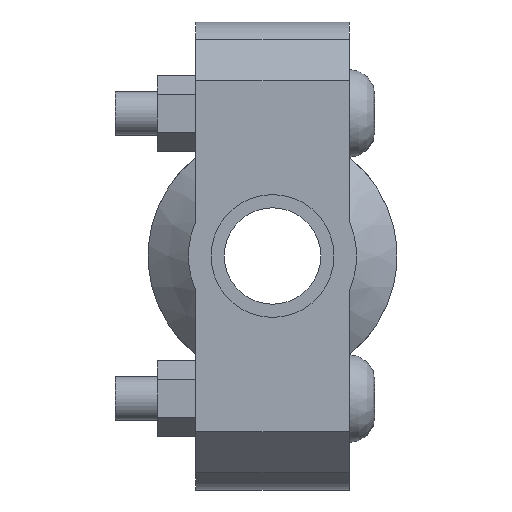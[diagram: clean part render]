
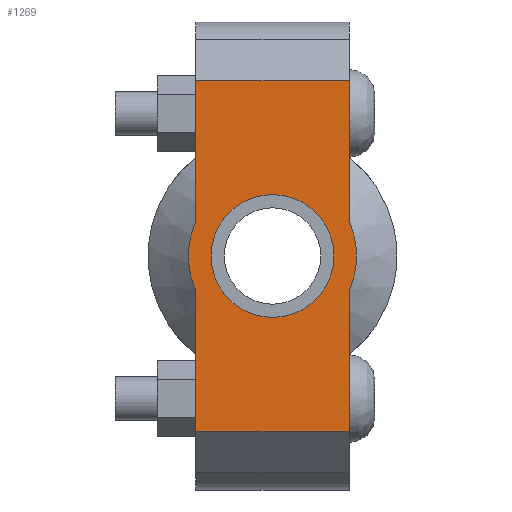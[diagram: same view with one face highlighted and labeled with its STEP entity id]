
A CAD part, left-side view. The second image highlights one B-rep face of the part: STEP entity #1269.
In plain terms, the highlighted planar face has unit normal (-1, 0, 0) as drawn and (0, 0, 1) by its records, which use the part's own axes.
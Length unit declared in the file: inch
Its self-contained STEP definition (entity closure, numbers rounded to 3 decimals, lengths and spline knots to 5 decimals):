
#97=LINE('',#2139,#186);
#112=LINE('',#2198,#201);
#120=LINE('',#2228,#209);
#122=LINE('',#2231,#211);
#123=LINE('',#2236,#212);
#124=LINE('',#2237,#213);
#186=VECTOR('',#1720,0.3937);
#201=VECTOR('',#1755,0.3937);
#209=VECTOR('',#1775,0.3937);
#211=VECTOR('',#1779,0.3937);
#212=VECTOR('',#1784,0.3937);
#213=VECTOR('',#1785,0.3937);
#261=FACE_BOUND('',#390,.T.);
#309=FACE_OUTER_BOUND('',#389,.T.);
#389=EDGE_LOOP('',(#995,#996,#997,#998,#999,#1000,#1001,#1002));
#390=EDGE_LOOP('',(#1003));
#471=CIRCLE('',#1477,0.719);
#472=CIRCLE('',#1478,0.719);
#473=CIRCLE('',#1479,0.525);
#556=VERTEX_POINT('',#2136);
#557=VERTEX_POINT('',#2138);
#578=VERTEX_POINT('',#2193);
#579=VERTEX_POINT('',#2197);
#588=VERTEX_POINT('',#2223);
#589=VERTEX_POINT('',#2227);
#590=VERTEX_POINT('',#2233);
#591=VERTEX_POINT('',#2235);
#592=VERTEX_POINT('',#2239);
#696=EDGE_CURVE('',#557,#556,#97,.T.);
#721=EDGE_CURVE('',#579,#578,#112,.T.);
#734=EDGE_CURVE('',#589,#588,#120,.T.);
#736=EDGE_CURVE('',#589,#556,#122,.T.);
#737=EDGE_CURVE('',#588,#590,#471,.T.);
#738=EDGE_CURVE('',#590,#591,#123,.T.);
#739=EDGE_CURVE('',#579,#591,#124,.T.);
#740=EDGE_CURVE('',#578,#557,#472,.T.);
#741=EDGE_CURVE('',#592,#592,#473,.T.);
#995=ORIENTED_EDGE('',*,*,#736,.F.);
#996=ORIENTED_EDGE('',*,*,#734,.T.);
#997=ORIENTED_EDGE('',*,*,#737,.T.);
#998=ORIENTED_EDGE('',*,*,#738,.T.);
#999=ORIENTED_EDGE('',*,*,#739,.F.);
#1000=ORIENTED_EDGE('',*,*,#721,.T.);
#1001=ORIENTED_EDGE('',*,*,#740,.T.);
#1002=ORIENTED_EDGE('',*,*,#696,.T.);
#1003=ORIENTED_EDGE('',*,*,#741,.T.);
#1146=PLANE('',#1476);
#1269=ADVANCED_FACE('',(#309,#261),#1146,.T.);
#1476=AXIS2_PLACEMENT_3D('',#2232,#1780,#1781);
#1477=AXIS2_PLACEMENT_3D('',#2234,#1782,#1783);
#1478=AXIS2_PLACEMENT_3D('',#2238,#1786,#1787);
#1479=AXIS2_PLACEMENT_3D('',#2240,#1788,#1789);
#1720=DIRECTION('',(1.,0.,0.));
#1755=DIRECTION('',(1.,0.,0.));
#1775=DIRECTION('',(-1.,0.,0.));
#1779=DIRECTION('',(0.,-1.,0.));
#1780=DIRECTION('center_axis',(0.,0.,1.));
#1781=DIRECTION('ref_axis',(-1.,0.,0.));
#1782=DIRECTION('center_axis',(0.,0.,1.));
#1783=DIRECTION('ref_axis',(1.,0.,0.));
#1784=DIRECTION('',(-1.,0.,0.));
#1785=DIRECTION('',(0.,1.,0.));
#1786=DIRECTION('center_axis',(0.,0.,1.));
#1787=DIRECTION('ref_axis',(1.,0.,0.));
#1788=DIRECTION('center_axis',(0.,0.,-1.));
#1789=DIRECTION('ref_axis',(1.,0.,0.));
#2136=CARTESIAN_POINT('',(1.5,-0.656,0.875));
#2138=CARTESIAN_POINT('',(0.29432,-0.656,0.875));
#2139=CARTESIAN_POINT('',(-2.,-0.656,0.875));
#2193=CARTESIAN_POINT('',(-0.29432,-0.656,0.875));
#2197=CARTESIAN_POINT('',(-1.5,-0.656,0.875));
#2198=CARTESIAN_POINT('',(-2.,-0.656,0.875));
#2223=CARTESIAN_POINT('',(0.29432,0.656,0.875));
#2227=CARTESIAN_POINT('',(1.5,0.656,0.875));
#2228=CARTESIAN_POINT('',(2.,0.656,0.875));
#2231=CARTESIAN_POINT('',(1.5,-0.328,0.875));
#2232=CARTESIAN_POINT('Origin',(0.,0.,
0.875));
#2233=CARTESIAN_POINT('',(-0.29432,0.656,0.875));
#2234=CARTESIAN_POINT('Origin',(0.,0.,0.875));
#2235=CARTESIAN_POINT('',(-1.5,0.656,0.875));
#2236=CARTESIAN_POINT('',(2.,0.656,0.875));
#2237=CARTESIAN_POINT('',(-1.5,0.328,0.875));
#2238=CARTESIAN_POINT('Origin',(0.,0.,0.875));
#2239=CARTESIAN_POINT('',(-0.525,0.,0.875));
#2240=CARTESIAN_POINT('Origin',(0.,0.,0.875));
